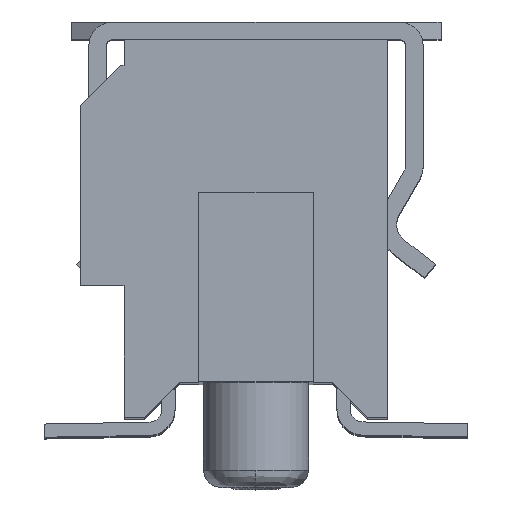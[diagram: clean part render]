
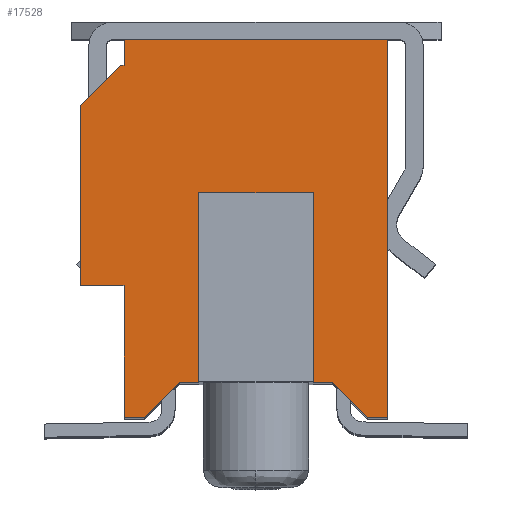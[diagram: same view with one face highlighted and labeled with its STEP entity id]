
A CAD part, top view. The second image highlights one B-rep face of the part: STEP entity #17528.
In plain terms, the highlighted planar face has unit normal (0, 0, 1).
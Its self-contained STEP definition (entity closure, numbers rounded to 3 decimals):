
#245 = EDGE_CURVE ( 'NONE', #15073, #14994, #1229, .T. ) ;
#246 = EDGE_CURVE ( 'NONE', #15139, #15012, #1266, .T. ) ;
#252 = EDGE_CURVE ( 'NONE', #15012, #15101, #1304, .T. ) ;
#261 = EDGE_CURVE ( 'NONE', #15086, #15139, #1287, .T. ) ;
#987 = VECTOR ( 'NONE', #1306, 1000. ) ;
#1014 = VECTOR ( 'NONE', #1234, 1000. ) ;
#1021 = VECTOR ( 'NONE', #1295, 1000. ) ;
#1043 = VECTOR ( 'NONE', #1290, 1000. ) ;
#1229 = LINE ( 'NONE', #1232, #1014 ) ;
#1232 = CARTESIAN_POINT ( 'NONE',  ( 2.57, -4.1, 13.08 ) ) ;
#1234 = DIRECTION ( 'NONE',  ( 0.707, -0.707, 0. ) ) ;
#1237 = CARTESIAN_POINT ( 'NONE',  ( 1.25, -1.75, 13.08 ) ) ;
#1266 = LINE ( 'NONE', #1237, #987 ) ;
#1287 = LINE ( 'NONE', #1288, #1021 ) ;
#1288 = CARTESIAN_POINT ( 'NONE',  ( 0.85, -2.15, 13.08 ) ) ;
#1290 = DIRECTION ( 'NONE',  ( 0., -1., 0. ) ) ;
#1295 = DIRECTION ( 'NONE',  ( 0., 1., 0. ) ) ;
#1299 = CARTESIAN_POINT ( 'NONE',  ( 2.15, -2.15, 13.08 ) ) ;
#1304 = LINE ( 'NONE', #1299, #1043 ) ;
#1306 = DIRECTION ( 'NONE',  ( 1., 0., 0. ) ) ;
#7536 = CARTESIAN_POINT ( 'NONE',  ( 2.77, -4.3, 13.08 ) ) ;
#7631 = CARTESIAN_POINT ( 'NONE',  ( 2.15, -1.75, 13.08 ) ) ;
#8254 = VECTOR ( 'NONE', #9373, 1000. ) ;
#8256 = VECTOR ( 'NONE', #9346, 1000. ) ;
#8257 = VECTOR ( 'NONE', #9271, 1000. ) ;
#8258 = VECTOR ( 'NONE', #9251, 1000. ) ;
#8267 = VECTOR ( 'NONE', #9287, 1000. ) ;
#8269 = VECTOR ( 'NONE', #9397, 1000. ) ;
#8439 = VECTOR ( 'NONE', #9849, 1000. ) ;
#8500 = AXIS2_PLACEMENT_3D ( 'NONE', #9007, #9009, #9012 ) ;
#9007 = CARTESIAN_POINT ( 'NONE',  ( -0.5, -4.3, 13.08 ) ) ;
#9009 = DIRECTION ( 'NONE',  ( 0., 0., 1. ) ) ;
#9012 = DIRECTION ( 'NONE',  ( 1., 0., 0. ) ) ;
#9027 = CARTESIAN_POINT ( 'NONE',  ( 2.37, -3.9, 13.08 ) ) ;
#9068 = CARTESIAN_POINT ( 'NONE',  ( 0.85, -3.9, 13.08 ) ) ;
#9079 = CARTESIAN_POINT ( 'NONE',  ( 2.15, -3.9, 13.08 ) ) ;
#9087 = CARTESIAN_POINT ( 'NONE',  ( -0.5, -2.8, 13.08 ) ) ;
#9104 = CARTESIAN_POINT ( 'NONE',  ( 0.63, -3.9, 13.08 ) ) ;
#9118 = CARTESIAN_POINT ( 'NONE',  ( 0.23, -4.3, 13.08 ) ) ;
#9122 = CARTESIAN_POINT ( 'NONE',  ( 0.85, -1.75, 13.08 ) ) ;
#9135 = CARTESIAN_POINT ( 'NONE',  ( 0., -2.8, 13.08 ) ) ;
#9141 = CARTESIAN_POINT ( 'NONE',  ( -0.5, -0.75, 13.08 ) ) ;
#9143 = CARTESIAN_POINT ( 'NONE',  ( -0.04, -0.3, 13.08 ) ) ;
#9153 = CARTESIAN_POINT ( 'NONE',  ( 3., 0., 13.08 ) ) ;
#9168 = CARTESIAN_POINT ( 'NONE',  ( 0., 0., 13.08 ) ) ;
#9189 = CARTESIAN_POINT ( 'NONE',  ( 0., -4.3, 13.08 ) ) ;
#9191 = CARTESIAN_POINT ( 'NONE',  ( 0., -0.3, 13.08 ) ) ;
#9201 = CARTESIAN_POINT ( 'NONE',  ( 3., -4.3, 13.08 ) ) ;
#9235 = LINE ( 'NONE', #9265, #8257 ) ;
#9245 = LINE ( 'NONE', #9250, #8258 ) ;
#9250 = CARTESIAN_POINT ( 'NONE',  ( -0.25, -2.8, 13.08 ) ) ;
#9251 = DIRECTION ( 'NONE',  ( -1., 0., 0. ) ) ;
#9265 = CARTESIAN_POINT ( 'NONE',  ( -0.02, -0.3, 13.08 ) ) ;
#9271 = DIRECTION ( 'NONE',  ( 1., 0., 0. ) ) ;
#9287 = DIRECTION ( 'NONE',  ( 0., 1., 0. ) ) ;
#9303 = CARTESIAN_POINT ( 'NONE',  ( 3., -2.15, 13.08 ) ) ;
#9308 = LINE ( 'NONE', #9303, #8267 ) ;
#9345 = CARTESIAN_POINT ( 'NONE',  ( 1.5, 0., 13.08 ) ) ;
#9346 = DIRECTION ( 'NONE',  ( -1., 0., 0. ) ) ;
#9351 = CARTESIAN_POINT ( 'NONE',  ( 0.23, -4.3, 13.08 ) ) ;
#9363 = LINE ( 'NONE', #9345, #8256 ) ;
#9366 = LINE ( 'NONE', #9351, #8254 ) ;
#9373 = DIRECTION ( 'NONE',  ( 0.707, 0.707, 0. ) ) ;
#9397 = DIRECTION ( 'NONE',  ( 0., -1., 0. ) ) ;
#9402 = CARTESIAN_POINT ( 'NONE',  ( 0., -2.15, 13.08 ) ) ;
#9406 = LINE ( 'NONE', #9402, #8269 ) ;
#9834 = CARTESIAN_POINT ( 'NONE',  ( 0.115, -4.3, 13.08 ) ) ;
#9849 = DIRECTION ( 'NONE',  ( 1., 0., 0. ) ) ;
#9851 = LINE ( 'NONE', #9834, #8439 ) ;
#9922 = FACE_OUTER_BOUND ( 'NONE', #16621, .T. ) ;
#9927 = PLANE ( 'NONE',  #8500 ) ;
#12118 = VECTOR ( 'NONE', #14114, 1000. ) ;
#12153 = VECTOR ( 'NONE', #14148, 1000. ) ;
#12171 = VECTOR ( 'NONE', #14166, 1000. ) ;
#12183 = VECTOR ( 'NONE', #14184, 1000. ) ;
#12187 = VECTOR ( 'NONE', #14126, 1000. ) ;
#12190 = VECTOR ( 'NONE', #14185, 1000. ) ;
#14080 = CARTESIAN_POINT ( 'NONE',  ( 1.25, -4.3, 13.08 ) ) ;
#14098 = LINE ( 'NONE', #14080, #12118 ) ;
#14113 = CARTESIAN_POINT ( 'NONE',  ( -0.5, -2.15, 13.08 ) ) ;
#14114 = DIRECTION ( 'NONE',  ( 1., 0., 0. ) ) ;
#14118 = LINE ( 'NONE', #14113, #12153 ) ;
#14119 = CARTESIAN_POINT ( 'NONE',  ( 1.25, -3.9, 13.08 ) ) ;
#14121 = CARTESIAN_POINT ( 'NONE',  ( 0., -2.15, 13.08 ) ) ;
#14125 = LINE ( 'NONE', #14119, #12187 ) ;
#14126 = DIRECTION ( 'NONE',  ( 1., 0., 0. ) ) ;
#14147 = LINE ( 'NONE', #14121, #12183 ) ;
#14148 = DIRECTION ( 'NONE',  ( 0., -1., 0. ) ) ;
#14159 = CARTESIAN_POINT ( 'NONE',  ( 1.25, -3.9, 13.08 ) ) ;
#14162 = CARTESIAN_POINT ( 'NONE',  ( -0.04, -0.3, 13.08 ) ) ;
#14166 = DIRECTION ( 'NONE',  ( -0.715, -0.699, 0. ) ) ;
#14169 = LINE ( 'NONE', #14162, #12171 ) ;
#14176 = LINE ( 'NONE', #14159, #12190 ) ;
#14184 = DIRECTION ( 'NONE',  ( 0., -1., 0. ) ) ;
#14185 = DIRECTION ( 'NONE',  ( 1., 0., 0. ) ) ;
#14994 = VERTEX_POINT ( 'NONE', #7536 ) ;
#15012 = VERTEX_POINT ( 'NONE', #7631 ) ;
#15073 = VERTEX_POINT ( 'NONE', #9027 ) ;
#15086 = VERTEX_POINT ( 'NONE', #9068 ) ;
#15101 = VERTEX_POINT ( 'NONE', #9079 ) ;
#15139 = VERTEX_POINT ( 'NONE', #9122 ) ;
#15140 = VERTEX_POINT ( 'NONE', #9104 ) ;
#15142 = VERTEX_POINT ( 'NONE', #9118 ) ;
#15146 = VERTEX_POINT ( 'NONE', #9135 ) ;
#15148 = VERTEX_POINT ( 'NONE', #9141 ) ;
#15149 = VERTEX_POINT ( 'NONE', #9143 ) ;
#15153 = VERTEX_POINT ( 'NONE', #9087 ) ;
#15198 = VERTEX_POINT ( 'NONE', #9189 ) ;
#15213 = VERTEX_POINT ( 'NONE', #9191 ) ;
#15220 = VERTEX_POINT ( 'NONE', #9168 ) ;
#15262 = VERTEX_POINT ( 'NONE', #9153 ) ;
#15265 = VERTEX_POINT ( 'NONE', #9201 ) ;
#15399 = ORIENTED_EDGE ( 'NONE', *, *, #17341, .T. ) ;
#15402 = ORIENTED_EDGE ( 'NONE', *, *, #18059, .T. ) ;
#15408 = ORIENTED_EDGE ( 'NONE', *, *, #261, .T. ) ;
#15415 = ORIENTED_EDGE ( 'NONE', *, *, #17507, .T. ) ;
#15424 = ORIENTED_EDGE ( 'NONE', *, *, #17339, .T. ) ;
#15439 = ORIENTED_EDGE ( 'NONE', *, *, #18052, .T. ) ;
#15449 = ORIENTED_EDGE ( 'NONE', *, *, #246, .T. ) ;
#15451 = ORIENTED_EDGE ( 'NONE', *, *, #17313, .T. ) ;
#15456 = ORIENTED_EDGE ( 'NONE', *, *, #245, .T. ) ;
#15463 = ORIENTED_EDGE ( 'NONE', *, *, #17267, .F. ) ;
#15490 = ORIENTED_EDGE ( 'NONE', *, *, #252, .T. ) ;
#15492 = ORIENTED_EDGE ( 'NONE', *, *, #17381, .T. ) ;
#15493 = ORIENTED_EDGE ( 'NONE', *, *, #18055, .T. ) ;
#15497 = ORIENTED_EDGE ( 'NONE', *, *, #17278, .F. ) ;
#15501 = ORIENTED_EDGE ( 'NONE', *, *, #18036, .T. ) ;
#15506 = ORIENTED_EDGE ( 'NONE', *, *, #18057, .T. ) ;
#15510 = ORIENTED_EDGE ( 'NONE', *, *, #18054, .T. ) ;
#16621 = EDGE_LOOP ( 'NONE', ( #15399, #15506, #15408, #15449, #15490, #15510, #15456, #15501, #15451, #15424, #15493, #15463, #15402, #15439, #15497, #15492, #15415 ) ) ;
#17267 = EDGE_CURVE ( 'NONE', #15149, #15213, #9235, .T. ) ;
#17278 = EDGE_CURVE ( 'NONE', #15146, #15153, #9245, .T. ) ;
#17313 = EDGE_CURVE ( 'NONE', #15265, #15262, #9308, .T. ) ;
#17339 = EDGE_CURVE ( 'NONE', #15262, #15220, #9363, .T. ) ;
#17341 = EDGE_CURVE ( 'NONE', #15142, #15140, #9366, .T. ) ;
#17381 = EDGE_CURVE ( 'NONE', #15146, #15198, #9406, .T. ) ;
#17507 = EDGE_CURVE ( 'NONE', #15198, #15142, #9851, .T. ) ;
#17528 = ADVANCED_FACE ( 'NONE', ( #9922 ), #9927, .T. ) ;
#18036 = EDGE_CURVE ( 'NONE', #14994, #15265, #14098, .T. ) ;
#18052 = EDGE_CURVE ( 'NONE', #15148, #15153, #14118, .T. ) ;
#18054 = EDGE_CURVE ( 'NONE', #15101, #15073, #14125, .T. ) ;
#18055 = EDGE_CURVE ( 'NONE', #15220, #15213, #14147, .T. ) ;
#18057 = EDGE_CURVE ( 'NONE', #15140, #15086, #14176, .T. ) ;
#18059 = EDGE_CURVE ( 'NONE', #15149, #15148, #14169, .T. ) ;
